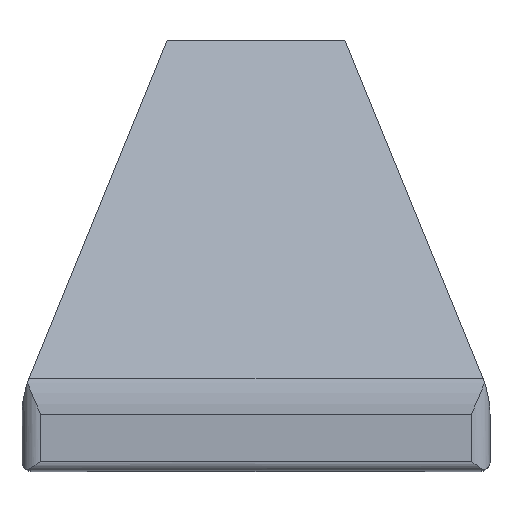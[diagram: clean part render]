
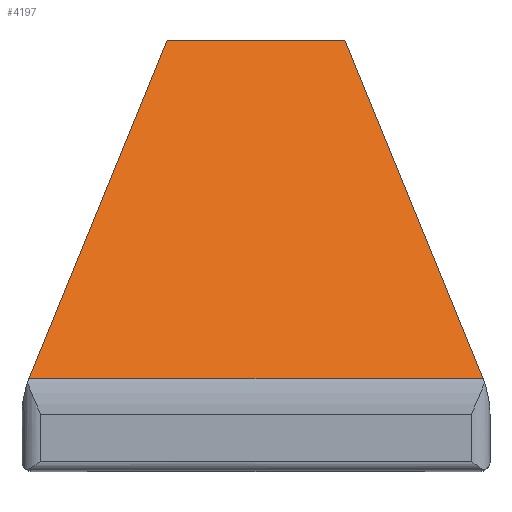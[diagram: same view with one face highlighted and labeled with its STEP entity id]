
A CAD part, top view. The second image highlights one B-rep face of the part: STEP entity #4197.
In plain terms, the highlighted planar face has unit normal (0, 0.378, 0.926).
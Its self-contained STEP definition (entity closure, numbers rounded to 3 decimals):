
#3761 = EDGE_CURVE( '', #7251, #6821, #9885, .T. );
#3865 = EDGE_CURVE( '', #7251, #7309, #9996, .T. );
#4197 = ADVANCED_FACE( '', ( #10358 ), #10359, .F. );
#6177 = EDGE_CURVE( '', #8955, #7309, #12491, .T. );
#6821 = VERTEX_POINT( '', #13183 );
#7251 = VERTEX_POINT( '', #13639 );
#7309 = VERTEX_POINT( '', #13702 );
#8337 = EDGE_CURVE( '', #8955, #6821, #14806, .T. );
#8955 = VERTEX_POINT( '', #15475 );
#9885 = LINE( '', #16904, #16905 );
#9996 = LINE( '', #17085, #17086 );
#10358 = FACE_OUTER_BOUND( '', #17662, .T. );
#10359 = PLANE( '', #17663 );
#12491 = LINE( '', #20999, #21000 );
#13183 = CARTESIAN_POINT( '', ( -12.13, -18.092, 12.13 ) );
#13639 = CARTESIAN_POINT( '', ( 12.13, -18.092, 12.13 ) );
#13702 = CARTESIAN_POINT( '', ( 4.75, 0., 4.75 ) );
#14806 = LINE( '', #24814, #24815 );
#15475 = CARTESIAN_POINT( '', ( -4.75, 0., 4.75 ) );
#16904 = CARTESIAN_POINT( '', ( 23., -18.092, 12.13 ) );
#16905 = VECTOR( '', #26982, 1. );
#17085 = CARTESIAN_POINT( '', ( 10.257, -13.502, 10.257 ) );
#17086 = VECTOR( '', #27118, 1. );
#17662 = EDGE_LOOP( '', ( #27661, #27662, #27663, #27664 ) );
#17663 = AXIS2_PLACEMENT_3D( '', #27665, #27666, #27667 );
#20999 = CARTESIAN_POINT( '', ( 11.5, 0., 4.75 ) );
#21000 = VECTOR( '', #30277, 1. );
#24814 = CARTESIAN_POINT( '', ( -10.615, -14.38, 10.615 ) );
#24815 = VECTOR( '', #33148, 1. );
#26982 = DIRECTION( '', ( -1., 0., 0. ) );
#27118 = DIRECTION( '', ( -0.353, 0.866, -0.353 ) );
#27661 = ORIENTED_EDGE( '', *, *, #8337, .T. );
#27662 = ORIENTED_EDGE( '', *, *, #3761, .F. );
#27663 = ORIENTED_EDGE( '', *, *, #3865, .T. );
#27664 = ORIENTED_EDGE( '', *, *, #6177, .F. );
#27665 = CARTESIAN_POINT( '', ( 23., -18.092, 12.13 ) );
#27666 = DIRECTION( '', ( 0., -0.378, -0.926 ) );
#27667 = DIRECTION( '', ( 0., -0.926, 0.378 ) );
#30277 = DIRECTION( '', ( 1., 0., 0. ) );
#33148 = DIRECTION( '', ( -0.353, -0.866, 0.353 ) );
